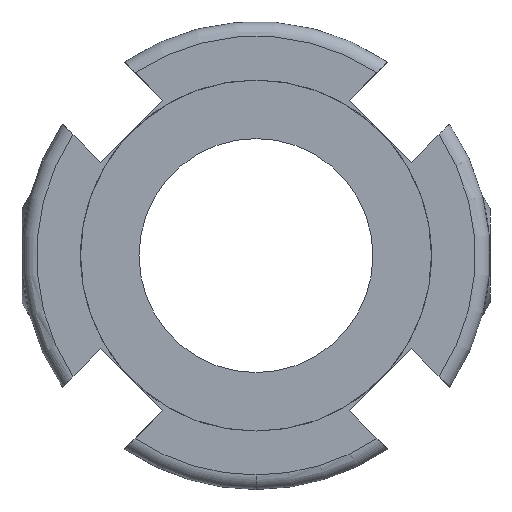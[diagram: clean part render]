
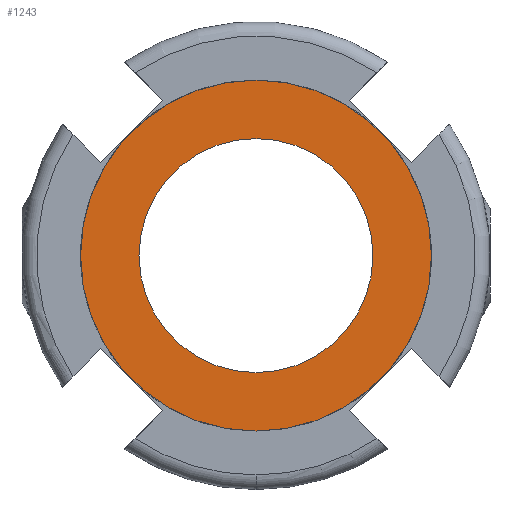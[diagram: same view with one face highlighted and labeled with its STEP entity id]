
A CAD part, left-side view. The second image highlights one B-rep face of the part: STEP entity #1243.
In plain terms, the highlighted planar face has unit normal (-1, 0, 0).
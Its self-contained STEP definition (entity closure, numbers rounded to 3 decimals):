
#16 = CIRCLE ( 'NONE', #830, 4. ) ;
#96 = CIRCLE ( 'NONE', #788, 6. ) ;
#217 = CARTESIAN_POINT ( 'NONE',  ( -8., 0., 4. ) ) ;
#348 = DIRECTION ( 'NONE',  ( 1., 0., 0. ) ) ;
#378 = EDGE_CURVE ( 'NONE', #2735, #1785, #2792, .T. ) ;
#461 = AXIS2_PLACEMENT_3D ( 'NONE', #3017, #348, #2257 ) ;
#477 = AXIS2_PLACEMENT_3D ( 'NONE', #1531, #2025, #1519 ) ;
#479 = CARTESIAN_POINT ( 'NONE',  ( -8., 0., 0. ) ) ;
#565 = EDGE_CURVE ( 'NONE', #1668, #3128, #96, .T. ) ;
#569 = CARTESIAN_POINT ( 'NONE',  ( -8., 0., 6. ) ) ;
#616 = DIRECTION ( 'NONE',  ( 0., 0., -1. ) ) ;
#649 = EDGE_CURVE ( 'NONE', #1785, #2735, #16, .T. ) ;
#693 = ORIENTED_EDGE ( 'NONE', *, *, #649, .T. ) ;
#788 = AXIS2_PLACEMENT_3D ( 'NONE', #1564, #2847, #616 ) ;
#830 = AXIS2_PLACEMENT_3D ( 'NONE', #1808, #2051, #2815 ) ;
#1181 = FACE_OUTER_BOUND ( 'NONE', #3122, .T. ) ;
#1185 = EDGE_LOOP ( 'NONE', ( #693, #2767 ) ) ;
#1243 = ADVANCED_FACE ( 'NONE', ( #1755, #1181 ), #2241, .T. ) ;
#1435 = DIRECTION ( 'NONE',  ( 0., 0., -1. ) ) ;
#1519 = DIRECTION ( 'NONE',  ( 0., 0., 1. ) ) ;
#1523 = ORIENTED_EDGE ( 'NONE', *, *, #1998, .F. ) ;
#1531 = CARTESIAN_POINT ( 'NONE',  ( -8., 6., 0. ) ) ;
#1564 = CARTESIAN_POINT ( 'NONE',  ( -8., 0., 0. ) ) ;
#1623 = AXIS2_PLACEMENT_3D ( 'NONE', #479, #1682, #1435 ) ;
#1668 = VERTEX_POINT ( 'NONE', #2075 ) ;
#1682 = DIRECTION ( 'NONE',  ( 1., 0., 0. ) ) ;
#1755 = FACE_BOUND ( 'NONE', #1185, .T. ) ;
#1785 = VERTEX_POINT ( 'NONE', #2908 ) ;
#1808 = CARTESIAN_POINT ( 'NONE',  ( -8., 0., 0. ) ) ;
#1998 = EDGE_CURVE ( 'NONE', #3128, #1668, #2480, .T. ) ;
#2025 = DIRECTION ( 'NONE',  ( -1., 0., 0. ) ) ;
#2051 = DIRECTION ( 'NONE',  ( 1., 0., 0. ) ) ;
#2075 = CARTESIAN_POINT ( 'NONE',  ( -8., 0., -6. ) ) ;
#2241 = PLANE ( 'NONE',  #477 ) ;
#2257 = DIRECTION ( 'NONE',  ( 0., 0., -1. ) ) ;
#2480 = CIRCLE ( 'NONE', #461, 6. ) ;
#2735 = VERTEX_POINT ( 'NONE', #217 ) ;
#2767 = ORIENTED_EDGE ( 'NONE', *, *, #378, .T. ) ;
#2792 = CIRCLE ( 'NONE', #1623, 4. ) ;
#2815 = DIRECTION ( 'NONE',  ( 0., 0., -1. ) ) ;
#2847 = DIRECTION ( 'NONE',  ( 1., 0., 0. ) ) ;
#2908 = CARTESIAN_POINT ( 'NONE',  ( -8., 0., -4. ) ) ;
#3017 = CARTESIAN_POINT ( 'NONE',  ( -8., 0., 0. ) ) ;
#3053 = ORIENTED_EDGE ( 'NONE', *, *, #565, .F. ) ;
#3122 = EDGE_LOOP ( 'NONE', ( #3053, #1523 ) ) ;
#3128 = VERTEX_POINT ( 'NONE', #569 ) ;
